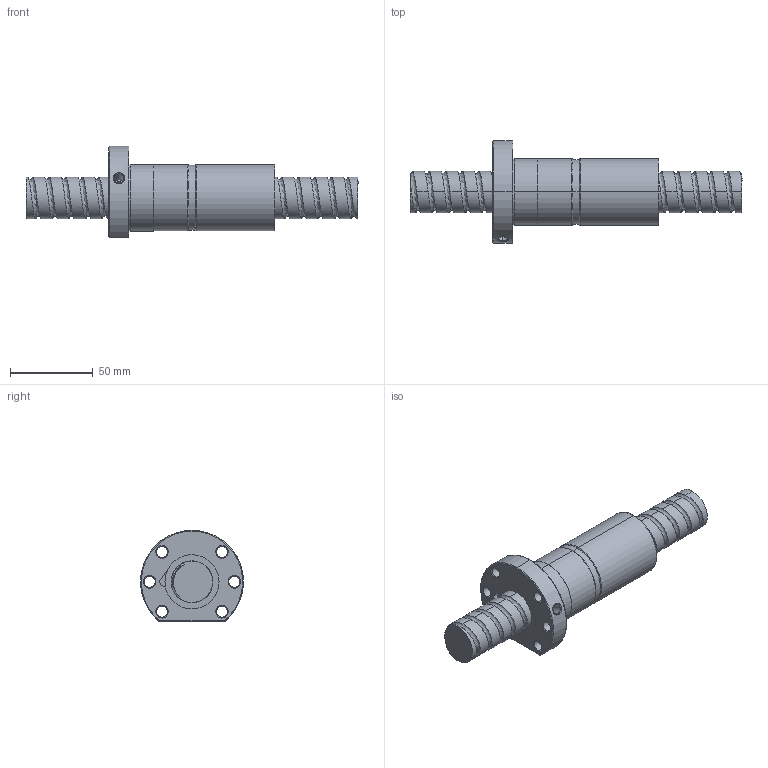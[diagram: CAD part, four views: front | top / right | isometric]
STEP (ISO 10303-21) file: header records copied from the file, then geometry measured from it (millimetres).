
FILE_DESCRIPTION (( 'STEP AP214' ), '1' );
FILE_NAME ('FDDC02510T3-B-B.STEP', '2010-07-06T02:50:14', ( 'XPAUTO' ), ( 'XPAUTO' ), 'SwSTEP 2.0', 'SolidWorks 2007', '' );
FILE_SCHEMA (( 'AUTOMOTIVE_DESIGN' ));
Length unit declared in the file: millimetre
Products named in the file (3): FDDC02510T3-B-B.sldasm-Part-1_預設; FDDC02510T3-B-B; FDDC02510T3-B-B.sldasm-Part-2_預設
Assembly tree (2 placements, depth 2):
  FDDC02510T3-B-B
    FDDC02510T3-B-B.sldasm-Part-1_預設
    FDDC02510T3-B-B.sldasm-Part-2_預設
Bounding box: 200 x 61.86 x 55 mm (x, y, z)
Volume: 184051.9 mm3; surface area: 45752.7 mm2
Topology: 2 solids, 2 shells, 142 faces, 355 edges, 222 vertices
Faces by surface type: cylinder 85, cone 24, plane 19, torus 9, bspline 5
Entity records: 26612 total; most frequent: CARTESIAN_POINT 23237, ORIENTED_EDGE 710, DIRECTION 657, EDGE_CURVE 355, AXIS2_PLACEMENT_3D 268, VERTEX_POINT 222, EDGE_LOOP 163, FACE_OUTER_BOUND 142
